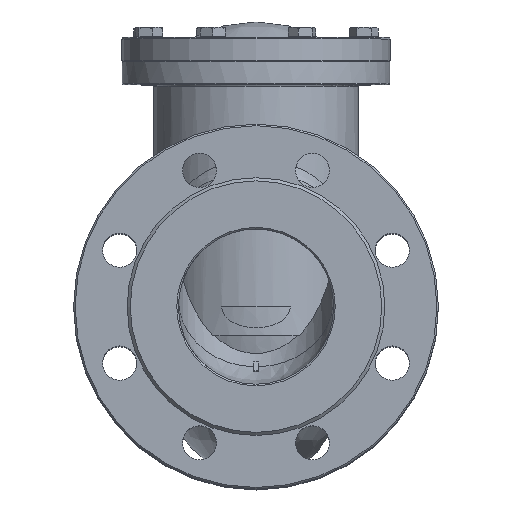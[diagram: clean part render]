
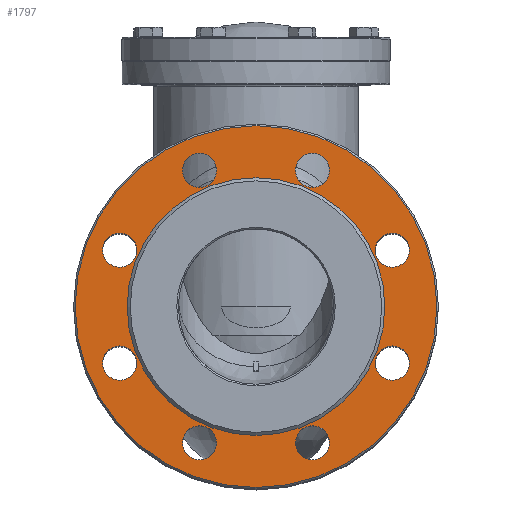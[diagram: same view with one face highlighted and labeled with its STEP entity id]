
A CAD part, top view. The second image highlights one B-rep face of the part: STEP entity #1797.
In plain terms, the highlighted planar face has unit normal (0, 0, 1).
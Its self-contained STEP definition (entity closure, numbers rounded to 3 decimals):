
#1797=ADVANCED_FACE('',(#7360,#7362,#7364,#7366,#7368,#7370,#7372,#7374,#7376,#7378),
#7380,.T.);
#7360=FACE_BOUND('',#7361,.T.);
#7361=EDGE_LOOP('',(#9247));
#7362=FACE_BOUND('',#7363,.T.);
#7363=EDGE_LOOP('',(#9248));
#7364=FACE_BOUND('',#7365,.T.);
#7365=EDGE_LOOP('',(#9249));
#7366=FACE_BOUND('',#7367,.T.);
#7367=EDGE_LOOP('',(#9250));
#7368=FACE_BOUND('',#7369,.T.);
#7369=EDGE_LOOP('',(#9251));
#7370=FACE_BOUND('',#7371,.T.);
#7371=EDGE_LOOP('',(#9252));
#7372=FACE_BOUND('',#7373,.T.);
#7373=EDGE_LOOP('',(#9253));
#7374=FACE_BOUND('',#7375,.T.);
#7375=EDGE_LOOP('',(#9254));
#7376=FACE_BOUND('',#7377,.T.);
#7377=EDGE_LOOP('',(#9255));
#7378=FACE_BOUND('',#7379,.T.);
#7379=EDGE_LOOP('',(#9256));
#7380=PLANE('',#7381);
#7381=AXIS2_PLACEMENT_3D('',#7382,#7383,#7384);
#7382=CARTESIAN_POINT('',(0.,0.,170.755));
#7383=DIRECTION('',(0.,0.,1.));
#7384=DIRECTION('',(1.,0.,0.));
#9247=ORIENTED_EDGE('',*,*,#10189,.F.);
#9248=ORIENTED_EDGE('',*,*,#10190,.F.);
#9249=ORIENTED_EDGE('',*,*,#10178,.T.);
#9250=ORIENTED_EDGE('',*,*,#10179,.T.);
#9251=ORIENTED_EDGE('',*,*,#10180,.T.);
#9252=ORIENTED_EDGE('',*,*,#10181,.T.);
#9253=ORIENTED_EDGE('',*,*,#10182,.T.);
#9254=ORIENTED_EDGE('',*,*,#10183,.T.);
#9255=ORIENTED_EDGE('',*,*,#10184,.T.);
#9256=ORIENTED_EDGE('',*,*,#10185,.T.);
#10178=EDGE_CURVE('',#11566,#11566,#11567,.T.);
#10179=EDGE_CURVE('',#11568,#11568,#11569,.T.);
#10180=EDGE_CURVE('',#11570,#11570,#11571,.T.);
#10181=EDGE_CURVE('',#11572,#11572,#11573,.T.);
#10182=EDGE_CURVE('',#11574,#11574,#11575,.T.);
#10183=EDGE_CURVE('',#11576,#11576,#11577,.T.);
#10184=EDGE_CURVE('',#11578,#11578,#11579,.T.);
#10185=EDGE_CURVE('',#11580,#11580,#11581,.T.);
#10189=EDGE_CURVE('',#11588,#11588,#11589,.T.);
#10190=EDGE_CURVE('',#11590,#11590,#11591,.T.);
#11566=VERTEX_POINT('',#22575);
#11567=CIRCLE('',#22576,11.);
#11568=VERTEX_POINT('',#22580);
#11569=CIRCLE('',#22581,11.);
#11570=VERTEX_POINT('',#22585);
#11571=CIRCLE('',#22586,11.);
#11572=VERTEX_POINT('',#22590);
#11573=CIRCLE('',#22591,11.);
#11574=VERTEX_POINT('',#22595);
#11575=CIRCLE('',#22596,11.);
#11576=VERTEX_POINT('',#22600);
#11577=CIRCLE('',#22601,11.);
#11578=VERTEX_POINT('',#22605);
#11579=CIRCLE('',#22606,11.);
#11580=VERTEX_POINT('',#22610);
#11581=CIRCLE('',#22611,11.);
#11588=VERTEX_POINT('',#22630);
#11589=CIRCLE('',#22631,116.5);
#11590=VERTEX_POINT('',#22635);
#11591=CIRCLE('',#22636,83.);
#22575=CARTESIAN_POINT('',(98.769,-36.355,170.755));
#22576=AXIS2_PLACEMENT_3D('',#22577,#22578,#22579);
#22577=CARTESIAN_POINT('',(87.769,-36.355,170.755));
#22578=DIRECTION('',(0.,0.,-1.));
#22579=DIRECTION('',(1.,0.,0.));
#22580=CARTESIAN_POINT('',(98.769,36.355,170.755));
#22581=AXIS2_PLACEMENT_3D('',#22582,#22583,#22584);
#22582=CARTESIAN_POINT('',(87.769,36.355,170.755));
#22583=DIRECTION('',(0.,0.,-1.));
#22584=DIRECTION('',(1.,0.,0.));
#22585=CARTESIAN_POINT('',(47.355,87.769,170.755));
#22586=AXIS2_PLACEMENT_3D('',#22587,#22588,#22589);
#22587=CARTESIAN_POINT('',(36.355,87.769,170.755));
#22588=DIRECTION('',(0.,0.,-1.));
#22589=DIRECTION('',(1.,0.,0.));
#22590=CARTESIAN_POINT('',(-25.355,87.769,170.755));
#22591=AXIS2_PLACEMENT_3D('',#22592,#22593,#22594);
#22592=CARTESIAN_POINT('',(-36.355,87.769,170.755));
#22593=DIRECTION('',(0.,0.,-1.));
#22594=DIRECTION('',(1.,0.,0.));
#22595=CARTESIAN_POINT('',(-76.769,36.355,170.755));
#22596=AXIS2_PLACEMENT_3D('',#22597,#22598,#22599);
#22597=CARTESIAN_POINT('',(-87.769,36.355,170.755));
#22598=DIRECTION('',(0.,0.,-1.));
#22599=DIRECTION('',(1.,0.,0.));
#22600=CARTESIAN_POINT('',(-76.769,-36.355,170.755));
#22601=AXIS2_PLACEMENT_3D('',#22602,#22603,#22604);
#22602=CARTESIAN_POINT('',(-87.769,-36.355,170.755));
#22603=DIRECTION('',(0.,0.,-1.));
#22604=DIRECTION('',(1.,0.,0.));
#22605=CARTESIAN_POINT('',(-25.355,-87.769,170.755));
#22606=AXIS2_PLACEMENT_3D('',#22607,#22608,#22609);
#22607=CARTESIAN_POINT('',(-36.355,-87.769,170.755));
#22608=DIRECTION('',(0.,0.,-1.));
#22609=DIRECTION('',(1.,0.,0.));
#22610=CARTESIAN_POINT('',(47.355,-87.769,170.755));
#22611=AXIS2_PLACEMENT_3D('',#22612,#22613,#22614);
#22612=CARTESIAN_POINT('',(36.355,-87.769,170.755));
#22613=DIRECTION('',(0.,0.,-1.));
#22614=DIRECTION('',(1.,0.,0.));
#22630=CARTESIAN_POINT('',(116.5,0.,170.755));
#22631=AXIS2_PLACEMENT_3D('',#22632,#22633,#22634);
#22632=CARTESIAN_POINT('',(0.,0.,170.755));
#22633=DIRECTION('',(0.,0.,-1.));
#22634=DIRECTION('',(1.,0.,0.));
#22635=CARTESIAN_POINT('',(83.,0.,170.755));
#22636=AXIS2_PLACEMENT_3D('',#22637,#22638,#22639);
#22637=CARTESIAN_POINT('',(0.,0.,170.755));
#22638=DIRECTION('',(0.,0.,1.));
#22639=DIRECTION('',(1.,0.,0.));
